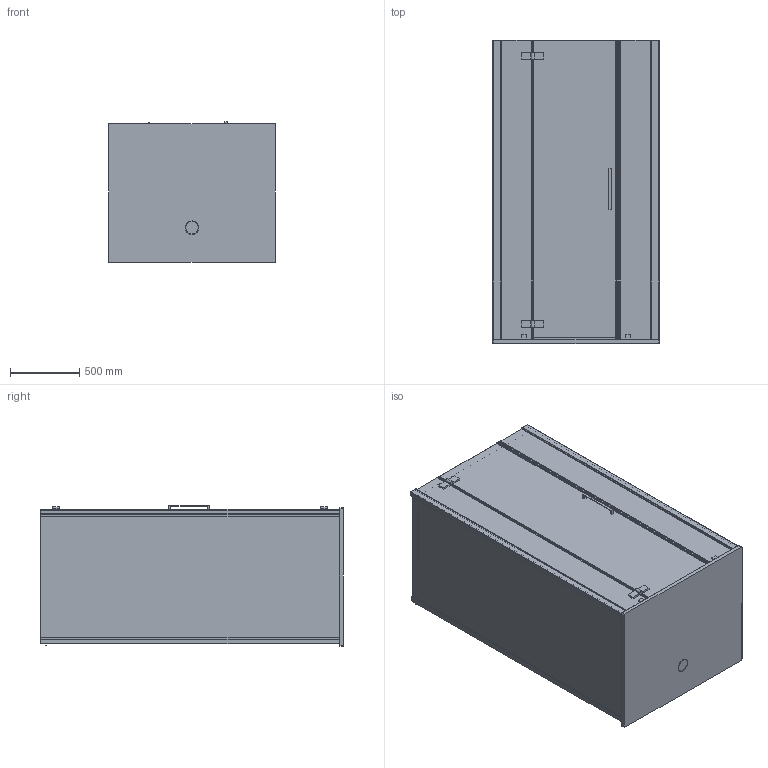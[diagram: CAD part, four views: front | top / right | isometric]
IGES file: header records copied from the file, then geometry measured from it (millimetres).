
Start section: SolidWorks IGES file using analytic representation for surfaces
Global section: file name: D:\Users\M.Szymanski\Desktop\Kabiny\SENSEPEREINCE\03. do przegrania\Senseperience_1200x1000_NL_K3D.IGS; native system: SolidWorks 2011; preprocessor: SolidWorks 2011; author: M.Szymanski; date: 181217.152455; units: millimetre
Bounding box: 1200 x 2180 x 1014.5 mm (x, y, z)
Surface area: 27654591 mm2 (no closed solid volume)
Topology: 0 solids, 0 shells, 1429 faces, 10473 edges, 13059 vertices
Faces by surface type: bspline 942, revolution 487
